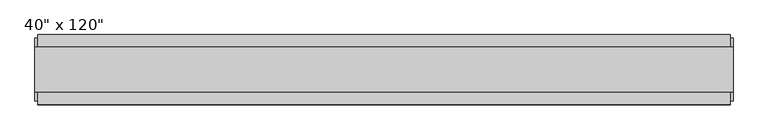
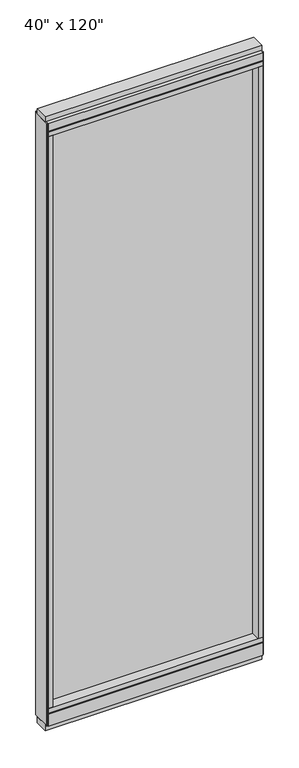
"""IFC4 building model written with IfcOpenShell, lengths in millimetres: furniture geometry."""

from ifc_helpers import new_model, si_unit, frame, origin, origin_with_axes, place, context, project, spatial, polyline, outline, extrude, source, transform, mapped, element, save


def furniture_d8ab0ef7(model_context):
    return source(origin(), model_context, "Body", "SweptSolid", [
        extrude(outline(polyline([(421.8014771, -9.5977216), (-541.8745229, -9.5977216), (-541.8745229, 0.5622784), (421.8014771, 0.5622784), (421.8014771, -9.5977216)])), frame((0.0, 0.0, 120.523), z_axis=(0.0, 0.0, 1.0), x_axis=(1.0, 0.0, 0.0)), (0.0, 0.0, 1.0), 2838.577),
        extrude(outline(polyline([(-55.3177216, 93.345), (-50.3647216, 93.345), (-50.3647216, 98.298), (41.3292784, 98.298), (41.3292784, 93.345), (46.2822784, 93.345), (46.2822784, 31.75), (-55.3177216, 31.75), (-55.3177216, 93.345)])), frame((-564.0995229, 0.0, 0.0), z_axis=(1.0, 0.0, 0.0), x_axis=(0.0, 1.0, 0.0)), (0.0, 0.0, 1.0), 1008.126),
        extrude(outline(polyline([(-564.0995229, -55.3177216), (-564.0995229, 46.2822784), (444.0264771, 46.2822784), (444.0264771, -55.3177216), (-564.0995229, -55.3177216)])), frame((0.0, 0.0, 98.298), z_axis=(0.0, 0.0, 1.0), x_axis=(1.0, 0.0, 0.0)), (0.0, 0.0, 1.0), 22.225),
        extrude(outline(polyline([(447.9634771, 27.9942784), (447.9634771, -37.0297216), (-568.0365229, -37.0297216), (-568.0365229, 27.9942784), (447.9634771, 27.9942784)])), origin_with_axes(), (0.0, 0.0, 1.0), 31.75),
        extrude(outline(polyline([(-568.0365229, -37.0297216), (-568.0365229, 27.9942784), (447.9634771, 27.9942784), (447.9634771, -37.0297216), (-568.0365229, -37.0297216)])), frame((0.0, 0.0, 3022.6), z_axis=(0.0, 0.0, 1.0), x_axis=(1.0, 0.0, 0.0)), (0.0, 0.0, 1.0), 25.4),
        extrude(outline(polyline([(-55.3177216, 2986.278), (-55.3177216, 3022.6), (46.2822784, 3022.6), (46.2822784, 2986.278), (41.3292784, 2986.278), (41.3292784, 2981.325), (-50.3647216, 2981.325), (-50.3647216, 2986.278), (-55.3177216, 2986.278)])), frame((-564.0995229, 0.0, 0.0), z_axis=(1.0, 0.0, 0.0), x_axis=(0.0, 1.0, 0.0)), (0.0, 0.0, 1.0), 1008.126),
        extrude(outline(polyline([(444.0264771, 46.2822784), (444.0264771, -55.3177216), (-564.0995229, -55.3177216), (-564.0995229, 46.2822784), (444.0264771, 46.2822784)])), frame((0.0, 0.0, 2959.1), z_axis=(0.0, 0.0, 1.0), x_axis=(1.0, 0.0, 0.0)), (0.0, 0.0, 1.0), 22.225),
        extrude(outline(polyline([(421.8014771, -55.3177216), (421.8014771, 46.2822784), (444.0264771, 46.2822784), (444.0264771, -55.3177216), (421.8014771, -55.3177216)])), frame((0.0, 0.0, 120.523), z_axis=(0.0, 0.0, 1.0), x_axis=(1.0, 0.0, 0.0)), (0.0, 0.0, 1.0), 2838.577),
        extrude(outline(polyline([(-541.8745229, -55.3177216), (-564.0995229, -55.3177216), (-564.0995229, 46.2822784), (-541.8745229, 46.2822784), (-541.8745229, -55.3177216)])), frame((0.0, 0.0, 120.523), z_axis=(0.0, 0.0, 1.0), x_axis=(1.0, 0.0, 0.0)), (0.0, 0.0, 1.0), 2838.577),
        extrude(outline(polyline([(447.9634771, -50.3647216), (444.0264771, -50.3647216), (444.0264771, 41.3292784), (447.9634771, 41.3292784), (447.9634771, -50.3647216)])), frame((0.0, 0.0, 31.75), z_axis=(0.0, 0.0, 1.0), x_axis=(1.0, 0.0, 0.0)), (0.0, 0.0, 1.0), 2990.85),
        extrude(outline(polyline([(-568.0365229, -50.3647216), (-568.0365229, 41.3292784), (-564.0995229, 41.3292784), (-564.0995229, -50.3647216), (-568.0365229, -50.3647216)])), frame((0.0, 0.0, 31.75), z_axis=(0.0, 0.0, 1.0), x_axis=(1.0, 0.0, 0.0)), (0.0, 0.0, 1.0), 2990.85),
    ])


if __name__ == "__main__":
    model = new_model("IFC4")
    model_context = context("Model", 3, world=origin())
    ifc_project = project(units=[si_unit("LENGTHUNIT", "METRE", prefix="MILLI")], contexts=[model_context])
    site = spatial("IfcSite", under=ifc_project)
    building = spatial("IfcBuilding", under=site)
    placement = place(None, origin())
    furniture_shape = furniture_d8ab0ef7(model_context)
    element("IfcFurniture", 1, ObjectType="Haworth_Enclose_Wall_Glass : 40\" x 120\"", at=placement, inside=building, context=model_context, shape_type="MappedRepresentation", body=[
        mapped(furniture_shape, transform((0.0, 0.0, 0.0), x_axis=(1.0, 0.0, 0.0), y_axis=(0.0, 1.0, 0.0), z_axis=(0.0, 0.0, 1.0))),
    ])
    save(model, "model.ifc")
